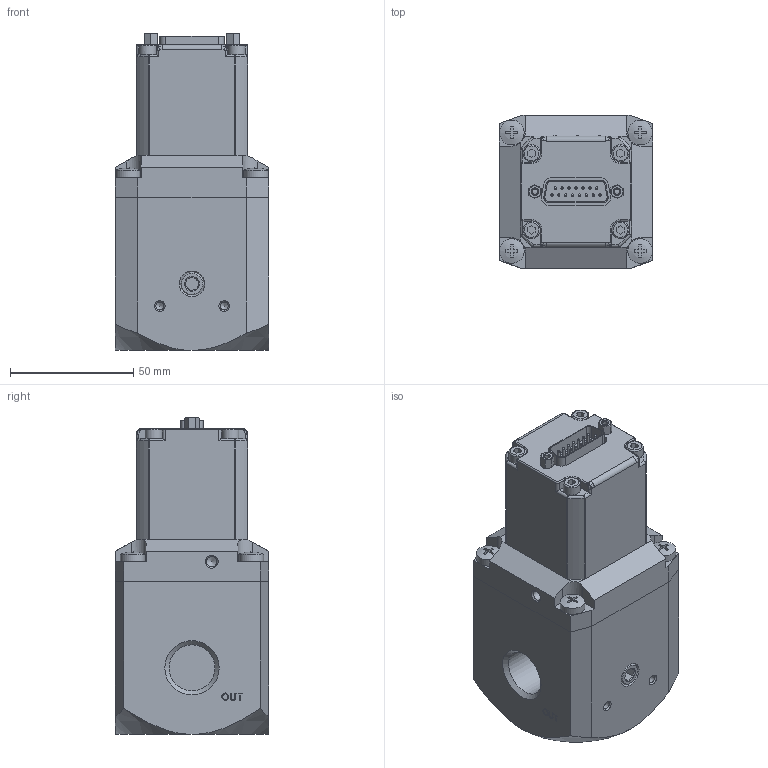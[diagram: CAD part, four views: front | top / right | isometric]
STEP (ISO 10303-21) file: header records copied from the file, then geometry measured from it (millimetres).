
FILE_DESCRIPTION(/* description */ ('R.PROP. TG3 F.E. CONTR.# FEED-VUOTO'),/* implementation_level */ '2;1');
FILE_NAME(/* name */ 'C:\PNX_VAULTFOLDER\Area Tecnica\Disegni\VARIE-3D\Componenti\1900 (vuoto)\193E2P_#_D_0090_##.stp',/* time_stamp */ '2019-09-13T15:05:51+02:00',/* author */ ('maniean1'),/* organization */ (''),/* preprocessor_version */ 'ST-DEVELOPER v17',/* originating_system */ 'Autodesk Inventor 2019',/* authorisation */ '');
FILE_SCHEMA (('AUTOMOTIVE_DESIGN { 1 0 10303 214 3 1 1 }'));
Length unit declared in the file: millimetre
Products named in the file (3): 193E2P.#.D.0090.##; 193E2P_#_D_0090_##; RK/1701/020
Assembly tree (3 placements, depth 2):
  193E2P.#.D.0090.##
    193E2P_#_D_0090_##
    RK/1701/020  x2
Bounding box: 62 x 62 x 128.4 mm (x, y, z)
Volume: 365426.2 mm3; surface area: 40256.4 mm2
Topology: 3 solids, 7 shells, 553 faces, 1494 edges, 978 vertices
Faces by surface type: plane 306, cylinder 115, bspline 54, cone 39, sphere 25, torus 14
Full cylindrical faces by diameter (mm): 1 x15, 2.156 x2, 2.5 x3, 3.242 x4, 4.134 x1, 4.5 x3, 6.5 x2, 7 x4, 8.5 x2, 8.566 x2, 10 x6, 14.95 x1, 18.631 x2
Entity records: 18845 total; most frequent: CARTESIAN_POINT 5016, ORIENTED_EDGE 2806, DIRECTION 2669, EDGE_CURVE 1403, VERTEX_POINT 940, AXIS2_PLACEMENT_3D 938, LINE 793, VECTOR 793
